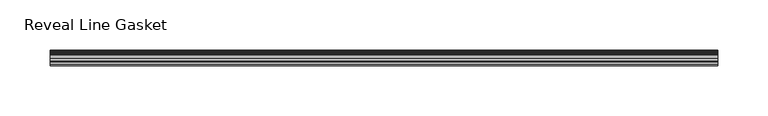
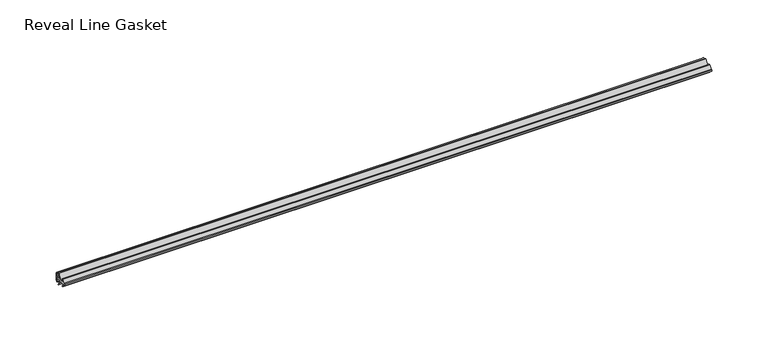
"""IFC4 building model written with IfcOpenShell, lengths in millimetres: proxy geometry, Accessories-Teknion-FHGR-AI_Healthcare-Reveal_Line_Gasket(Horizontal)-R2022 : Reveal Line Gasket."""

from ifc_helpers import new_model, si_unit, point, frame, frame_2d, origin, place, context, project, spatial, polyline, circle_curve, trimmed, segment, composite_curve, outline, extrude, source, transform, mapped, element, save


def reveal_line_gasket_ce7270c6(model_context):
    return source(origin(), model_context, "Body", "SweptSolid", [
        extrude(outline(composite_curve([segment(polyline([(7.6326998, 1603.2), (7.6326998, 1597.2), (7.4091917, 1596.2445073), (6.8813059, 1595.3115316)]), True, "CONTINUOUS"), segment(trimmed(circle_curve(frame_2d((6.5243141, 1595.5135207)), 0.4101739), [point((6.8813059, 1595.3115316))], [point((6.1246704, 1595.6058653))], False, "CARTESIAN"), True, "CONTINUOUS"), segment(polyline([(6.1246704, 1595.6058653), (6.3626997, 1597.3020914), (6.3626997, 1599.3345473)]), True, "CONTINUOUS"), segment(trimmed(circle_curve(frame_2d((5.6959605, 1598.9180742)), 0.786124), [point((6.3626997, 1599.3345473))], [point((5.0926996, 1599.422125))], True, "CARTESIAN"), True, "CONTINUOUS"), segment(polyline([(5.0926996, 1599.422125), (0.7492996, 1599.422125), (3.7293824, 1594.2604705)]), True, "CONTINUOUS"), segment(trimmed(circle_curve(frame_2d((3.3132479, 1594.1950239)), 0.4212495), [point((3.7293824, 1594.2604705))], [point((3.0485022, 1593.8673642))], False, "CARTESIAN"), True, "CONTINUOUS"), segment(polyline([(3.0485022, 1593.8673642), (-0.5742594, 1599.422125), (-4.8262978, 1599.422125), (-3.1660374, 1596.5464703)]), True, "CONTINUOUS"), segment(trimmed(circle_curve(frame_2d((-3.5978728, 1596.4881145)), 0.4357605), [point((-3.1660374, 1596.5464703))], [point((-3.864328, 1596.1433119))], False, "CARTESIAN"), True, "CONTINUOUS"), segment(polyline([(-3.864328, 1596.1433119), (-6.1944059, 1599.422125), (-7.6326998, 1599.422125), (-7.6326998, 1600.977875), (-6.1944059, 1600.977875), (-3.864328, 1604.2566881)]), True, "CONTINUOUS"), segment(trimmed(circle_curve(frame_2d((-3.5978728, 1603.9118855)), 0.4357605), [point((-3.864328, 1604.2566881))], [point((-3.1660374, 1603.8535297))], False, "CARTESIAN"), True, "CONTINUOUS"), segment(polyline([(-3.1660374, 1603.8535297), (-4.8262978, 1600.977875), (-0.5742594, 1600.977875), (3.0485022, 1606.5326358)]), True, "CONTINUOUS"), segment(trimmed(circle_curve(frame_2d((3.3132479, 1606.2049761)), 0.4212495), [point((3.0485022, 1606.5326358))], [point((3.7293824, 1606.1395295))], False, "CARTESIAN"), True, "CONTINUOUS"), segment(polyline([(3.7293824, 1606.1395295), (0.7492996, 1600.977875), (5.0926996, 1600.977875)]), True, "CONTINUOUS"), segment(trimmed(circle_curve(frame_2d((5.6959605, 1601.4819258)), 0.786124), [point((5.0926996, 1600.977875))], [point((6.3626997, 1601.0654527))], True, "CARTESIAN"), True, "CONTINUOUS"), segment(polyline([(6.3626997, 1601.0654527), (6.3626997, 1603.0979086), (6.1246704, 1604.7941347)]), True, "CONTINUOUS"), segment(trimmed(circle_curve(frame_2d((6.5243141, 1604.8864793)), 0.4101739), [point((6.1246704, 1604.7941347))], [point((6.8813059, 1605.0884684))], False, "CARTESIAN"), True, "CONTINUOUS"), segment(polyline([(6.8813059, 1605.0884684), (7.4091917, 1604.1554927), (7.6326998, 1603.2)]), True, "CONTINUOUS")], self_intersect=False)), frame((-332.4603284, 0.0, 0.0), z_axis=(1.0, 0.0, 0.0), x_axis=(0.0, 1.0, 0.0)), (0.0, 0.0, 1.0), 664.9206568),
    ])


if __name__ == "__main__":
    model = new_model("IFC4")
    model_context = context("Model", 3, world=origin())
    ifc_project = project(units=[si_unit("LENGTHUNIT", "METRE", prefix="MILLI")], contexts=[model_context])
    site = spatial("IfcSite", under=ifc_project)
    building = spatial("IfcBuilding", under=site)
    placement = place(None, origin())
    reveal_line_gasket_shape = reveal_line_gasket_ce7270c6(model_context)
    element("IfcBuildingElementProxy", 1, Name="Accessories-Teknion-FHGR-AI_Healthcare-Reveal_Line_Gasket(Horizontal)-R2022 : Reveal Line Gasket", ObjectType="Accessories-Teknion-FHGR-AI_Healthcare-Reveal_Line_Gasket(Horizontal)-R2022 : Reveal Line Gasket", at=placement, inside=building, context=model_context, shape_type="MappedRepresentation", body=[
        mapped(reveal_line_gasket_shape, transform((0.0, 0.0, 0.0), x_axis=(1.0, 0.0, 0.0), y_axis=(0.0, 1.0, 0.0), z_axis=(0.0, 0.0, 1.0))),
    ])
    save(model, "model.ifc")
